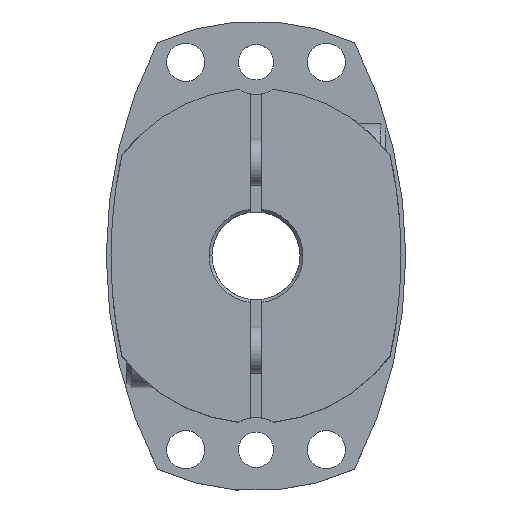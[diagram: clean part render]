
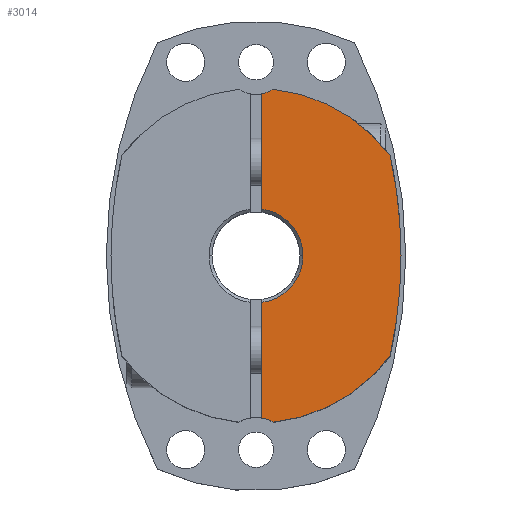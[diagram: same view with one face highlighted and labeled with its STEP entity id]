
A CAD part, top view. The second image highlights one B-rep face of the part: STEP entity #3014.
In plain terms, the highlighted planar face has unit normal (0, 0, 1).
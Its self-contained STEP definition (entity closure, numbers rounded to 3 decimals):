
#373=CARTESIAN_POINT('',(8.,0.,25.5));
#374=VERTEX_POINT('',#373);
#381=CARTESIAN_POINT('',(1.,7.937,25.5));
#382=VERTEX_POINT('',#381);
#383=CARTESIAN_POINT('',(0.,0.,25.5));
#384=DIRECTION('',(0.0,0.0,1.0));
#385=DIRECTION('',(-1.0,0.0,0.0));
#386=AXIS2_PLACEMENT_3D('',#383,#384,#385);
#387=CIRCLE('',#386,8.0);
#388=EDGE_CURVE('',#374,#382,#387,.T.);
#537=CARTESIAN_POINT('',(24.7,0.,25.5));
#538=VERTEX_POINT('',#537);
#658=CARTESIAN_POINT('',(22.845,17.039,25.5));
#659=VERTEX_POINT('',#658);
#666=CARTESIAN_POINT('',(-54.5,0.,25.5));
#667=DIRECTION('',(0.0,0.0,-1.0));
#668=DIRECTION('',(1.0,0.0,0.0));
#669=AXIS2_PLACEMENT_3D('',#666,#667,#668);
#670=CIRCLE('',#669,79.2);
#671=EDGE_CURVE('',#659,#538,#670,.T.);
#2331=CARTESIAN_POINT('',(2.935,28.348,25.5));
#2332=VERTEX_POINT('',#2331);
#2339=CARTESIAN_POINT('',(0.,0.,25.5));
#2340=DIRECTION('',(0.0,0.0,-1.0));
#2341=DIRECTION('',(1.0,0.0,0.0));
#2342=AXIS2_PLACEMENT_3D('',#2339,#2340,#2341);
#2343=CIRCLE('',#2342,28.5);
#2344=EDGE_CURVE('',#2332,#659,#2343,.T.);
#2555=CARTESIAN_POINT('',(22.845,-17.039,25.5));
#2556=VERTEX_POINT('',#2555);
#2557=CARTESIAN_POINT('',(-54.5,0.,25.5));
#2558=DIRECTION('',(0.0,0.0,-1.0));
#2559=DIRECTION('',(1.0,0.0,0.0));
#2560=AXIS2_PLACEMENT_3D('',#2557,#2558,#2559);
#2561=CIRCLE('',#2560,79.2);
#2562=EDGE_CURVE('',#538,#2556,#2561,.T.);
#2679=CARTESIAN_POINT('',(1.,-27.592,25.5));
#2680=VERTEX_POINT('',#2679);
#2696=CARTESIAN_POINT('',(2.935,-28.348,25.5));
#2697=VERTEX_POINT('',#2696);
#2704=CARTESIAN_POINT('',(0.,-33.,25.5));
#2705=DIRECTION('',(0.0,0.0,-1.0));
#2706=DIRECTION('',(1.0,0.0,0.0));
#2707=AXIS2_PLACEMENT_3D('',#2704,#2705,#2706);
#2708=CIRCLE('',#2707,5.5);
#2709=EDGE_CURVE('',#2680,#2697,#2708,.T.);
#2888=CARTESIAN_POINT('',(1.,27.592,25.5));
#2889=VERTEX_POINT('',#2888);
#2896=CARTESIAN_POINT('',(0.,33.,25.5));
#2897=DIRECTION('',(0.0,0.0,-1.0));
#2898=DIRECTION('',(1.0,0.0,0.0));
#2899=AXIS2_PLACEMENT_3D('',#2896,#2897,#2898);
#2900=CIRCLE('',#2899,5.5);
#2901=EDGE_CURVE('',#2332,#2889,#2900,.T.);
#2936=CARTESIAN_POINT('',(1.,-7.937,25.5));
#2937=VERTEX_POINT('',#2936);
#2938=CARTESIAN_POINT('',(1.,-7.937,25.5));
#2939=DIRECTION('',(0.0,-1.0,0.0));
#2940=VECTOR('',#2939,19.654);
#2941=LINE('',#2938,#2940);
#2942=EDGE_CURVE('',#2937,#2680,#2941,.T.);
#2980=CARTESIAN_POINT('',(0.,0.,25.5));
#2981=DIRECTION('',(0.0,0.0,1.0));
#2982=DIRECTION('',(1.0,0.0,0.0));
#2983=AXIS2_PLACEMENT_3D('',#2980,#2981,#2982);
#2984=PLANE('',#2983);
#2985=ORIENTED_EDGE('',*,*,#2709,.T.);
#2986=CARTESIAN_POINT('',(0.,0.,25.5));
#2987=DIRECTION('',(0.0,0.0,-1.0));
#2988=DIRECTION('',(1.0,0.0,0.0));
#2989=AXIS2_PLACEMENT_3D('',#2986,#2987,#2988);
#2990=CIRCLE('',#2989,28.5);
#2991=EDGE_CURVE('',#2556,#2697,#2990,.T.);
#2992=ORIENTED_EDGE('',*,*,#2991,.F.);
#2993=ORIENTED_EDGE('',*,*,#2562,.F.);
#2994=ORIENTED_EDGE('',*,*,#671,.F.);
#2995=ORIENTED_EDGE('',*,*,#2344,.F.);
#2996=ORIENTED_EDGE('',*,*,#2901,.T.);
#2997=CARTESIAN_POINT('',(1.,27.592,25.5));
#2998=DIRECTION('',(0.0,-1.0,0.0));
#2999=VECTOR('',#2998,19.654);
#3000=LINE('',#2997,#2999);
#3001=EDGE_CURVE('',#2889,#382,#3000,.T.);
#3002=ORIENTED_EDGE('',*,*,#3001,.T.);
#3003=ORIENTED_EDGE('',*,*,#388,.F.);
#3004=CARTESIAN_POINT('',(0.,0.,25.5));
#3005=DIRECTION('',(0.0,0.0,1.0));
#3006=DIRECTION('',(-1.0,0.0,0.0));
#3007=AXIS2_PLACEMENT_3D('',#3004,#3005,#3006);
#3008=CIRCLE('',#3007,8.0);
#3009=EDGE_CURVE('',#2937,#374,#3008,.T.);
#3010=ORIENTED_EDGE('',*,*,#3009,.F.);
#3011=ORIENTED_EDGE('',*,*,#2942,.T.);
#3012=EDGE_LOOP('',(#2985,#2992,#2993,#2994,#2995,#2996,#3002,#3003,#3010,#3011));
#3013=FACE_OUTER_BOUND('',#3012,.T.);
#3014=ADVANCED_FACE('',(#3013),#2984,.T.);
